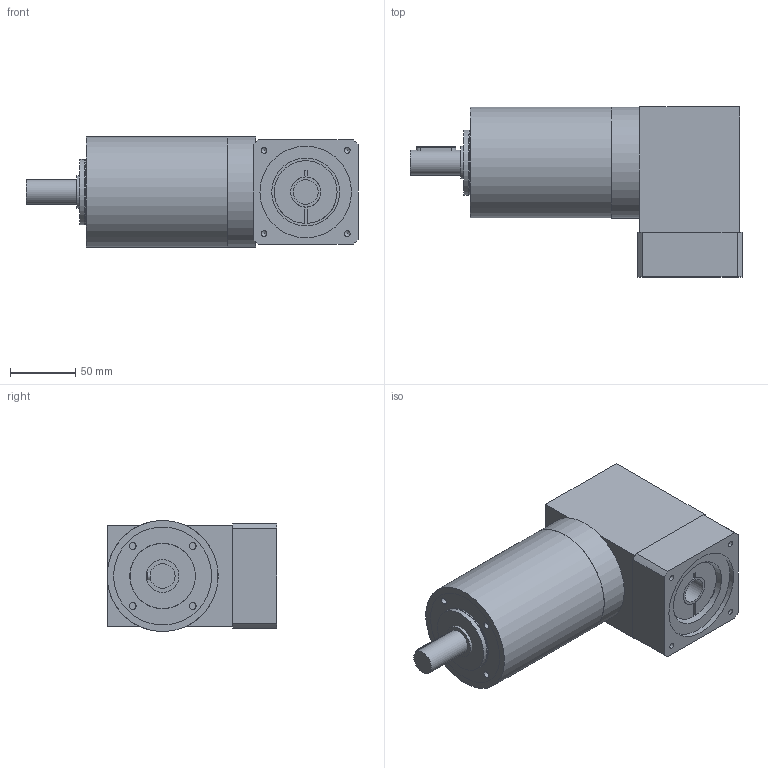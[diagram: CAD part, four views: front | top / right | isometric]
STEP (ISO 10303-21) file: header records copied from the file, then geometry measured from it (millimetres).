
FILE_DESCRIPTION(/* description */ (''),/* implementation_level */ '2;1');
FILE_NAME(/* name */ 'E0001806MP271008111658_step203.stp',/* time_stamp */ '2008-10-27T11:18:29+01:00',/* author */ (''),/* organization */ (''),/* preprocessor_version */ 'ST-DEVELOPER v11',/* originating_system */ 'UGS - NX 5.0',/* authorisation */ '');
FILE_SCHEMA (('CONFIG_CONTROL_DESIGN'));
Length unit declared in the file: millimetre
Products named in the file (1): E0001806MP271008111658_M
Bounding box: 254.05 x 130 x 85 mm (x, y, z)
Volume: 1764805.8 mm3; surface area: 187118 mm2
Topology: 10 solids, 10 shells, 121 faces, 257 edges, 170 vertices
Faces by surface type: plane 54, cylinder 47, cone 17, torus 3
Full cylindrical faces by diameter (mm): 4.351 x4, 5.188 x10, 6.2 x1, 6.5 x1, 10.5 x1, 13.75 x1, 19 x2, 23 x1, 25 x2, 50 x2, 52 x1, 63.9 x1, 67.96 x1, 68 x2, 70 x1, 70.9 x1, 74.95 x1, 75 x2, 85 x2
Entity records: 2916 total; most frequent: DIRECTION 512, CARTESIAN_POINT 505, ORIENTED_EDGE 344, AXIS2_PLACEMENT_3D 221, EDGE_LOOP 198, EDGE_CURVE 172, FACE_BOUND 164, VERTEX_POINT 150
